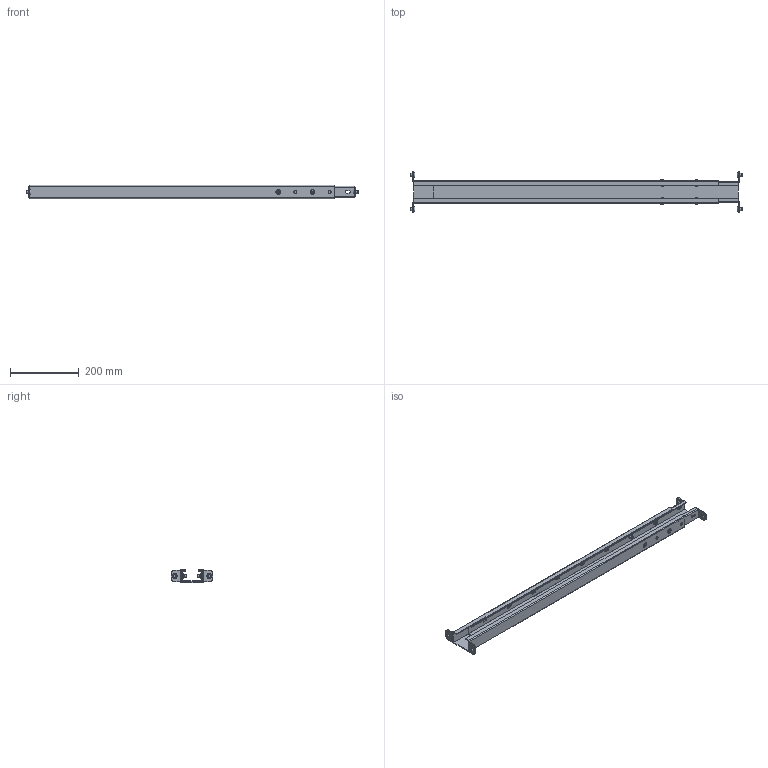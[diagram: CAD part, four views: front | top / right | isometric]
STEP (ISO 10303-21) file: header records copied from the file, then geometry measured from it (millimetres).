
FILE_DESCRIPTION(/* description */ ('Unknown'),/* implementation_level */ '2;1');
FILE_NAME(/* name */ '127.00842_00-950mm',/* time_stamp */ '2025-11-05T10:12:03+01:00',/* author */ ('Unknown'),/* organization */ ('Unknown'),/* preprocessor_version */ 'ST-DEVELOPER v20',/* originating_system */ 'Solid Edge',/* authorisation */ 'Unknown');
FILE_SCHEMA (('AUTOMOTIVE_DESIGN {1 0 10303 214 3 1 1}'));
Length unit declared in the file: millimetre
Products named in the file (7): 127.00842; E1 Traverse aussen; E1 Traverse innen; Halbrundkopfschraube M6x16; Scheibe ﾘ6,4; Sechskantmutter M6; Halbrundkopfschraube M8x10
Assembly tree (18 placements, depth 2):
  127.00842
    E1 Traverse aussen
    E1 Traverse innen
    Halbrundkopfschraube M6x16  x4
    Scheibe ﾘ6,4  x4
    Sechskantmutter M6  x4
    Halbrundkopfschraube M8x10  x4
Bounding box: 965 x 120 x 40 mm (x, y, z)
Volume: 675253.3 mm3; surface area: 555062.8 mm2
Topology: 18 solids, 18 shells, 593 faces, 1499 edges, 962 vertices
Faces by surface type: plane 260, cylinder 201, torus 72, bspline 48, cone 8, sphere 4
Full cylindrical faces by diameter (mm): 6 x8, 6.4 x4, 8 x4, 12 x4, 13.6 x4, 14 x4
Entity records: 9999 total; most frequent: CARTESIAN_POINT 2361, ORIENTED_EDGE 1530, DIRECTION 1523, EDGE_CURVE 765, AXIS2_PLACEMENT_3D 535, VERTEX_POINT 508, LINE 453, VECTOR 453
